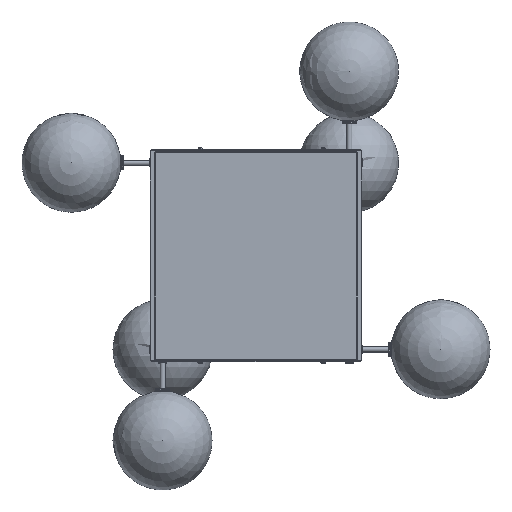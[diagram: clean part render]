
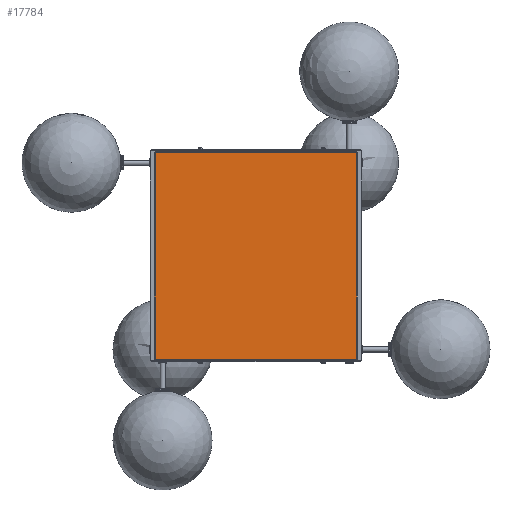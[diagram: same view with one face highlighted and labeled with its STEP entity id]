
A CAD part, top view. The second image highlights one B-rep face of the part: STEP entity #17784.
In plain terms, the highlighted planar face has unit normal (0, 0, 1).
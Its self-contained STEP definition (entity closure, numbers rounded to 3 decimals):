
#3857=FACE_OUTER_BOUND('',#5346,.T.);
#5346=EDGE_LOOP('',(#15757,#15758,#15759,#15760,#15761,#15762,#15763,#15764,
#15765,#15766,#15767,#15768));
#6315=LINE('',#32051,#7322);
#6316=LINE('',#32053,#7323);
#6317=LINE('',#32055,#7324);
#6318=LINE('',#32057,#7325);
#6319=LINE('',#32059,#7326);
#6320=LINE('',#32061,#7327);
#6321=LINE('',#32063,#7328);
#6322=LINE('',#32065,#7329);
#6323=LINE('',#32067,#7330);
#6324=LINE('',#32069,#7331);
#6325=LINE('',#32071,#7332);
#6326=LINE('',#32072,#7333);
#7322=VECTOR('',#26753,10.);
#7323=VECTOR('',#26754,10.);
#7324=VECTOR('',#26755,10.);
#7325=VECTOR('',#26756,10.);
#7326=VECTOR('',#26757,10.);
#7327=VECTOR('',#26758,10.);
#7328=VECTOR('',#26759,10.);
#7329=VECTOR('',#26760,10.);
#7330=VECTOR('',#26761,10.);
#7331=VECTOR('',#26762,10.);
#7332=VECTOR('',#26763,10.);
#7333=VECTOR('',#26764,10.);
#8824=VERTEX_POINT('',#32049);
#8825=VERTEX_POINT('',#32050);
#8826=VERTEX_POINT('',#32052);
#8827=VERTEX_POINT('',#32054);
#8828=VERTEX_POINT('',#32056);
#8829=VERTEX_POINT('',#32058);
#8830=VERTEX_POINT('',#32060);
#8831=VERTEX_POINT('',#32062);
#8832=VERTEX_POINT('',#32064);
#8833=VERTEX_POINT('',#32066);
#8834=VERTEX_POINT('',#32068);
#8835=VERTEX_POINT('',#32070);
#11139=EDGE_CURVE('',#8824,#8825,#6315,.T.);
#11140=EDGE_CURVE('',#8825,#8826,#6316,.T.);
#11141=EDGE_CURVE('',#8826,#8827,#6317,.T.);
#11142=EDGE_CURVE('',#8827,#8828,#6318,.T.);
#11143=EDGE_CURVE('',#8828,#8829,#6319,.T.);
#11144=EDGE_CURVE('',#8829,#8830,#6320,.T.);
#11145=EDGE_CURVE('',#8830,#8831,#6321,.T.);
#11146=EDGE_CURVE('',#8831,#8832,#6322,.T.);
#11147=EDGE_CURVE('',#8832,#8833,#6323,.T.);
#11148=EDGE_CURVE('',#8833,#8834,#6324,.T.);
#11149=EDGE_CURVE('',#8834,#8835,#6325,.T.);
#11150=EDGE_CURVE('',#8835,#8824,#6326,.T.);
#15757=ORIENTED_EDGE('',*,*,#11139,.T.);
#15758=ORIENTED_EDGE('',*,*,#11140,.T.);
#15759=ORIENTED_EDGE('',*,*,#11141,.T.);
#15760=ORIENTED_EDGE('',*,*,#11142,.T.);
#15761=ORIENTED_EDGE('',*,*,#11143,.T.);
#15762=ORIENTED_EDGE('',*,*,#11144,.T.);
#15763=ORIENTED_EDGE('',*,*,#11145,.T.);
#15764=ORIENTED_EDGE('',*,*,#11146,.T.);
#15765=ORIENTED_EDGE('',*,*,#11147,.T.);
#15766=ORIENTED_EDGE('',*,*,#11148,.T.);
#15767=ORIENTED_EDGE('',*,*,#11149,.T.);
#15768=ORIENTED_EDGE('',*,*,#11150,.T.);
#16491=PLANE('',#20594);
#17784=ADVANCED_FACE('',(#3857),#16491,.F.);
#20594=AXIS2_PLACEMENT_3D('',#32048,#26751,#26752);
#26751=DIRECTION('center_axis',(0.,0.,
-1.));
#26752=DIRECTION('ref_axis',(-1.,0.,0.));
#26753=DIRECTION('',(0.,1.,0.));
#26754=DIRECTION('',(0.,1.,0.));
#26755=DIRECTION('',(0.,1.,0.));
#26756=DIRECTION('',(-1.,0.,0.));
#26757=DIRECTION('',(-1.,0.,0.));
#26758=DIRECTION('',(-1.,0.,0.));
#26759=DIRECTION('',(0.,-1.,0.));
#26760=DIRECTION('',(0.,-1.,0.));
#26761=DIRECTION('',(0.,-1.,0.));
#26762=DIRECTION('',(1.,0.,0.));
#26763=DIRECTION('',(1.,0.,0.));
#26764=DIRECTION('',(1.,0.,0.));
#32048=CARTESIAN_POINT('Origin',(0.,0.,
809.111));
#32049=CARTESIAN_POINT('',(253.5,-260.,809.111));
#32050=CARTESIAN_POINT('',(253.5,-259.939,809.111));
#32051=CARTESIAN_POINT('',(253.5,-130.,809.111));
#32052=CARTESIAN_POINT('',(253.5,259.939,809.111));
#32053=CARTESIAN_POINT('',(253.5,-130.,809.111));
#32054=CARTESIAN_POINT('',(253.5,260.,809.111));
#32055=CARTESIAN_POINT('',(253.5,-130.,809.111));
#32056=CARTESIAN_POINT('',(253.439,260.,809.111));
#32057=CARTESIAN_POINT('',(126.75,260.,809.111));
#32058=CARTESIAN_POINT('',(-253.439,260.,809.111));
#32059=CARTESIAN_POINT('',(126.75,260.,809.111));
#32060=CARTESIAN_POINT('',(-253.5,260.,809.111));
#32061=CARTESIAN_POINT('',(126.75,260.,809.111));
#32062=CARTESIAN_POINT('',(-253.5,259.939,809.111));
#32063=CARTESIAN_POINT('',(-253.5,130.,809.111));
#32064=CARTESIAN_POINT('',(-253.5,-259.939,809.111));
#32065=CARTESIAN_POINT('',(-253.5,130.,809.111));
#32066=CARTESIAN_POINT('',(-253.5,-260.,809.111));
#32067=CARTESIAN_POINT('',(-253.5,130.,809.111));
#32068=CARTESIAN_POINT('',(-253.439,-260.,809.111));
#32069=CARTESIAN_POINT('',(-126.75,-260.,809.111));
#32070=CARTESIAN_POINT('',(253.439,-260.,809.111));
#32071=CARTESIAN_POINT('',(-126.75,-260.,809.111));
#32072=CARTESIAN_POINT('',(-126.75,-260.,809.111));
